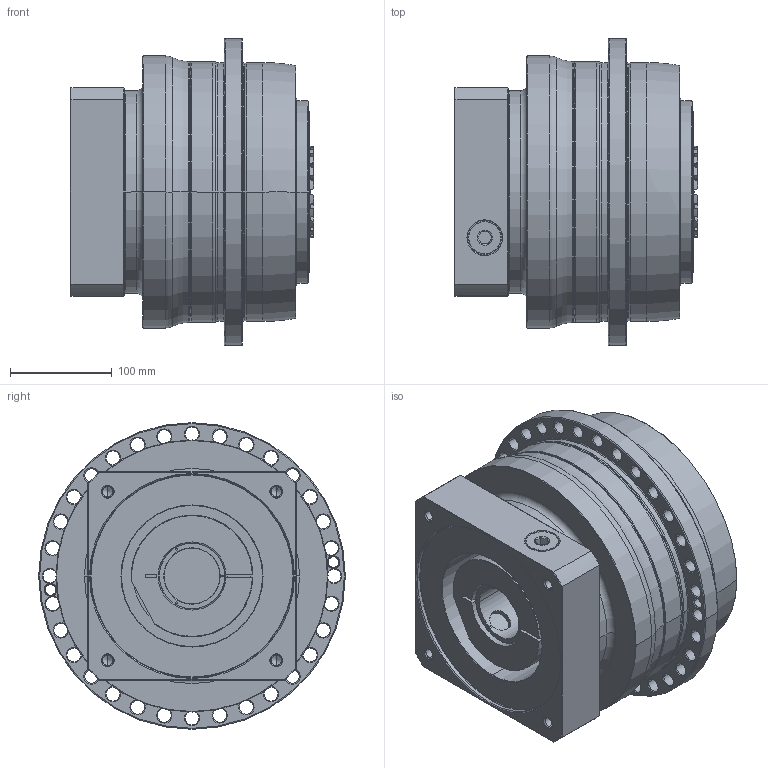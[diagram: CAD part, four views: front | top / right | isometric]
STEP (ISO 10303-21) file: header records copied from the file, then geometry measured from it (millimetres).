
FILE_DESCRIPTION((''),'2;1');
FILE_NAME('APC255_1ST_55-P0409C00201_ASM','2018-06-27T',('d01226'),(''),'PRO/ENGINEER BY PARAMETRIC TECHNOLOGY CORPORATION, 2008410','PRO/ENGINEER BY PARAMETRIC TECHNOLOGY CORPORATION, 2008410','');
FILE_SCHEMA(('CONFIG_CONTROL_DESIGN'));
Length unit declared in the file: millimetre
Products named in the file (9): P0278701003; P0359770103; P1318710401; P0503C00016; P0912704001; P1211700001; P0409C00201; 21711426021; APC255_1ST_55-P0409C00201_ASM
Assembly tree (8 placements, depth 2):
  APC255_1ST_55-P0409C00201_ASM
    P0278701003
    P0359770103
    P1318710401
    P0503C00016
    P0912704001
    P1211700001
    P0409C00201
    21711426021
Bounding box: 239.6 x 302 x 302 mm (x, y, z)
Volume: 9499280.3 mm3; surface area: 817430.1 mm2
Topology: 9 solids, 21 shells, 763 faces, 1873 edges, 1143 vertices
Faces by surface type: cone 272, cylinder 234, plane 131, torus 112, bspline 14
Entity records: 28044 total; most frequent: CARTESIAN_POINT 9537, DIRECTION 4145, ORIENTED_EDGE 3660, EDGE_CURVE 1855, AXIS2_PLACEMENT_3D 1803, VERTEX_POINT 1143, CIRCLE 1025, EDGE_LOOP 880
